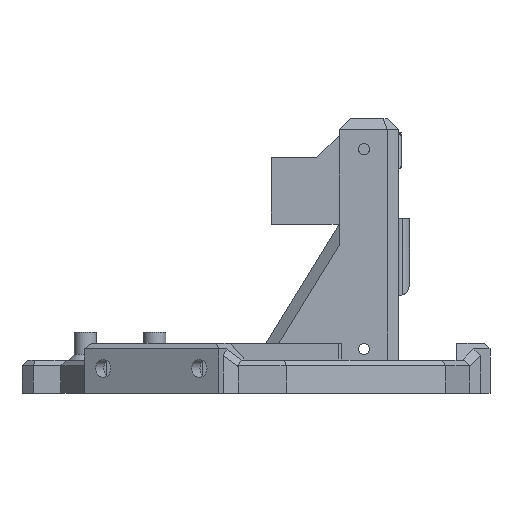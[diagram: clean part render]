
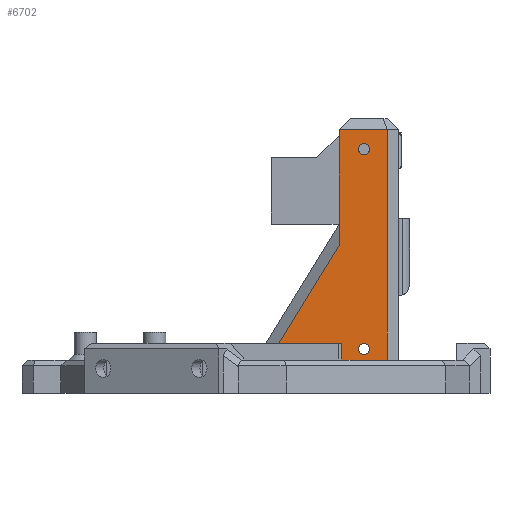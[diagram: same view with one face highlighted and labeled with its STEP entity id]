
A CAD part, left-side view. The second image highlights one B-rep face of the part: STEP entity #6702.
In plain terms, the highlighted planar face has unit normal (-1, 0, 0).
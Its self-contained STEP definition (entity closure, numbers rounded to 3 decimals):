
#314=FACE_BOUND('',#1075,.T.);
#315=FACE_BOUND('',#1076,.T.);
#432=CIRCLE('',#7070,1.);
#434=CIRCLE('',#7073,1.);
#669=FACE_OUTER_BOUND('',#1074,.T.);
#1074=EDGE_LOOP('',(#5261,#5262,#5263,#5264,#5265));
#1075=EDGE_LOOP('',(#5266));
#1076=EDGE_LOOP('',(#5267));
#1386=LINE('',#9161,#2093);
#1399=LINE('',#9186,#2106);
#1599=LINE('',#11789,#2306);
#1731=LINE('',#12072,#2438);
#1732=LINE('',#12073,#2439);
#2093=VECTOR('',#7444,10.);
#2106=VECTOR('',#7459,10.);
#2306=VECTOR('',#7971,10.);
#2438=VECTOR('',#8201,10.);
#2439=VECTOR('',#8202,10.);
#2796=VERTEX_POINT('',#9151);
#2800=VERTEX_POINT('',#9160);
#2811=VERTEX_POINT('',#9184);
#3000=VERTEX_POINT('',#11578);
#3002=VERTEX_POINT('',#11583);
#3085=VERTEX_POINT('',#11786);
#3086=VERTEX_POINT('',#11788);
#3441=EDGE_CURVE('',#2796,#2800,#1386,.T.);
#3454=EDGE_CURVE('',#2811,#2796,#1399,.T.);
#3730=EDGE_CURVE('',#3000,#3000,#432,.T.);
#3732=EDGE_CURVE('',#3002,#3002,#434,.T.);
#3823=EDGE_CURVE('',#3085,#3086,#1599,.T.);
#3968=EDGE_CURVE('',#3086,#2811,#1731,.T.);
#3969=EDGE_CURVE('',#3085,#2800,#1732,.T.);
#5261=ORIENTED_EDGE('',*,*,#3441,.F.);
#5262=ORIENTED_EDGE('',*,*,#3454,.F.);
#5263=ORIENTED_EDGE('',*,*,#3968,.F.);
#5264=ORIENTED_EDGE('',*,*,#3823,.F.);
#5265=ORIENTED_EDGE('',*,*,#3969,.T.);
#5266=ORIENTED_EDGE('',*,*,#3730,.T.);
#5267=ORIENTED_EDGE('',*,*,#3732,.T.);
#6384=PLANE('',#7138);
#6702=ADVANCED_FACE('',(#669,#314,#315),#6384,.T.);
#7070=AXIS2_PLACEMENT_3D('',#11579,#7849,#7850);
#7073=AXIS2_PLACEMENT_3D('',#11584,#7855,#7856);
#7138=AXIS2_PLACEMENT_3D('',#12071,#8199,#8200);
#7444=DIRECTION('',(0.,-1.,0.));
#7459=DIRECTION('',(0.,0.,1.));
#7849=DIRECTION('center_axis',(1.,0.,0.));
#7850=DIRECTION('ref_axis',(0.,0.,-1.));
#7855=DIRECTION('center_axis',(1.,0.,0.));
#7856=DIRECTION('ref_axis',(0.,0.,-1.));
#7971=DIRECTION('',(0.,1.,0.));
#8199=DIRECTION('center_axis',(-1.,0.,0.));
#8200=DIRECTION('ref_axis',(0.,-1.,0.));
#8201=DIRECTION('',(0.,-0.522,0.853));
#8202=DIRECTION('',(0.,0.,1.));
#9151=CARTESIAN_POINT('',(-20.5,-13.5,47.5));
#9160=CARTESIAN_POINT('',(-20.5,-22.2,47.5));
#9161=CARTESIAN_POINT('',(-20.5,-16.105,47.5));
#9184=CARTESIAN_POINT('',(-20.5,-13.5,26.67));
#9186=CARTESIAN_POINT('',(-20.5,-13.5,6.));
#11578=CARTESIAN_POINT('',(-20.5,-18.,9.));
#11579=CARTESIAN_POINT('Origin',(-20.5,-18.,8.));
#11583=CARTESIAN_POINT('',(-20.5,-18.,45.));
#11584=CARTESIAN_POINT('Origin',(-20.5,-18.,44.));
#11786=CARTESIAN_POINT('',(-20.5,-22.2,6.));
#11788=CARTESIAN_POINT('',(-20.5,-0.845,6.));
#11789=CARTESIAN_POINT('',(-20.5,-6.75,6.));
#12071=CARTESIAN_POINT('Origin',(-20.5,-13.5,6.));
#12072=CARTESIAN_POINT('',(-20.5,-2.251,8.296));
#12073=CARTESIAN_POINT('',(-20.5,-22.2,42.5));
